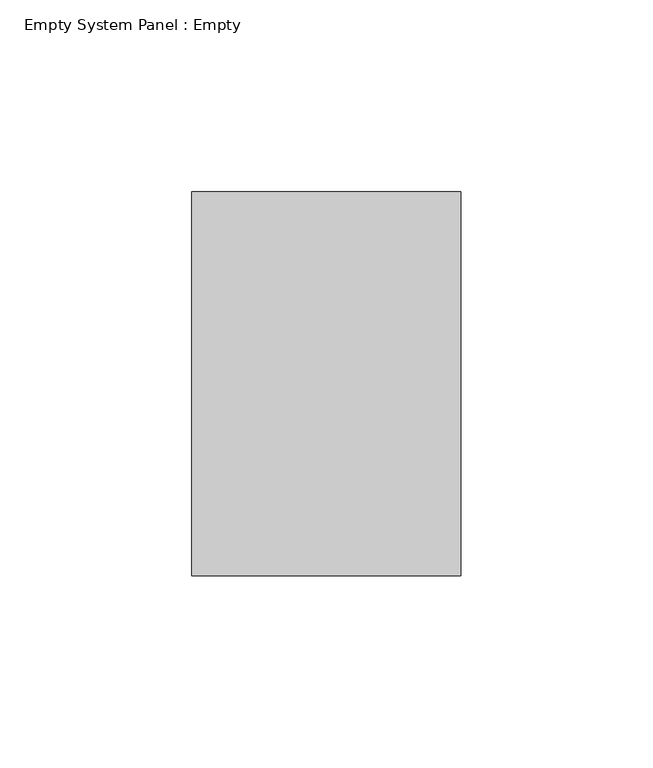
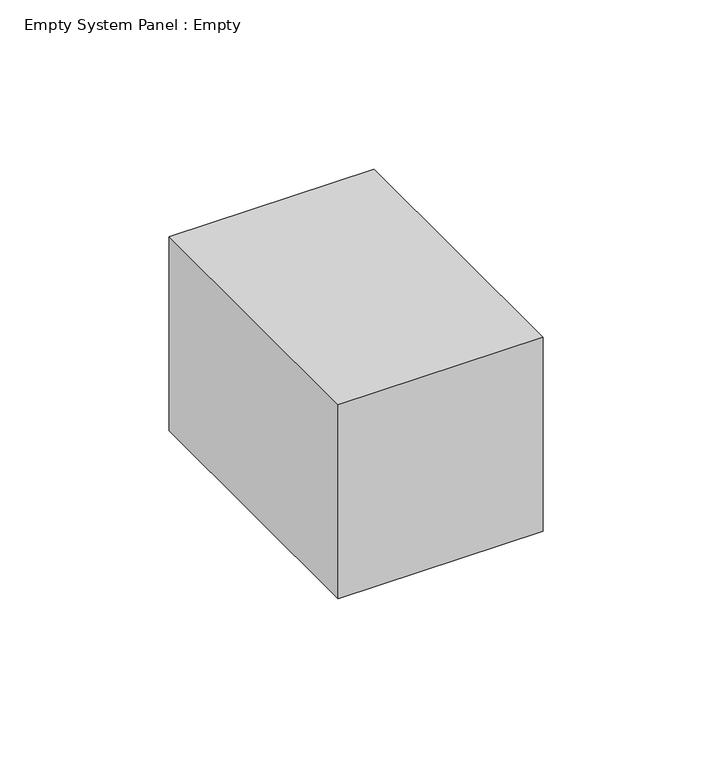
"""IFC4 building model written with IfcOpenShell, lengths in millimetres: plate geometry, Empty System Panel : Empty."""

from ifc_helpers import new_model, si_unit, origin, origin_with_axes, place, context, project, spatial, polyline, outline, extrude, source, transform, mapped, element, save


def empty_system_panel_empty_c85c0b77(model_context):
    return source(origin(), model_context, "Body", "SweptSolid", [
        extrude(outline(polyline([(34.9999998, 50.0), (-34.9999998, 50.0), (-34.9999998, 150.0), (34.9999998, 150.0), (34.9999998, 50.0)])), origin_with_axes(), (0.0, 0.0, 1.0), 70.0),
    ])


if __name__ == "__main__":
    model = new_model("IFC4")
    model_context = context("Model", 3, world=origin())
    ifc_project = project(units=[si_unit("LENGTHUNIT", "METRE", prefix="MILLI")], contexts=[model_context])
    site = spatial("IfcSite", under=ifc_project)
    building = spatial("IfcBuilding", under=site)
    placement = place(None, origin())
    empty_system_panel_empty_shape = empty_system_panel_empty_c85c0b77(model_context)
    element("IfcPlate", 1, ObjectType="Empty System Panel : Empty", at=placement, inside=building, context=model_context, shape_type="MappedRepresentation", body=[
        mapped(empty_system_panel_empty_shape, transform((0.0, 0.0, 0.0), x_axis=(1.0, 0.0, 0.0), y_axis=(0.0, 1.0, 0.0), z_axis=(0.0, 0.0, 1.0))),
    ])
    save(model, "model.ifc")
